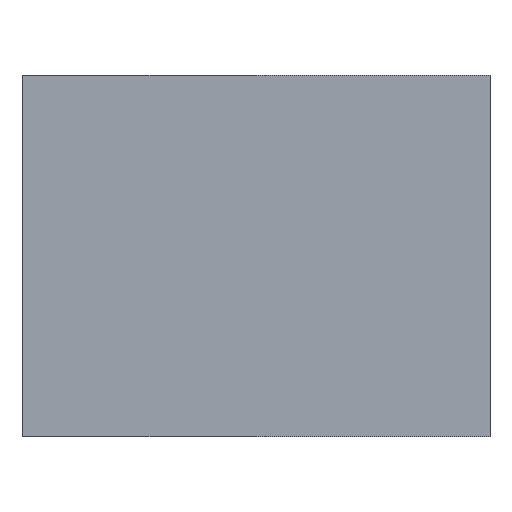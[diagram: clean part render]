
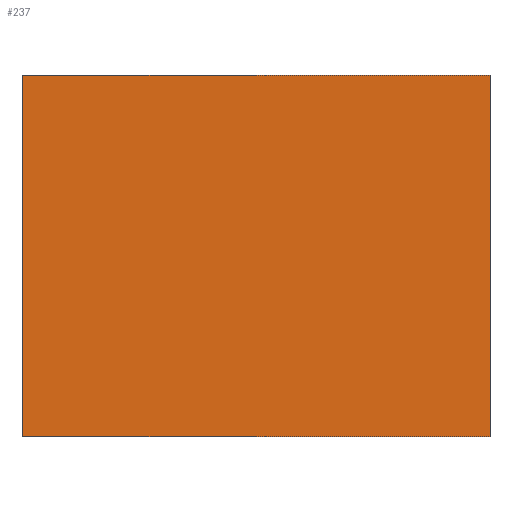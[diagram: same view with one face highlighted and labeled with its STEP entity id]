
A CAD part, front view. The second image highlights one B-rep face of the part: STEP entity #237.
In plain terms, the highlighted planar face has unit normal (0, -1, 0).
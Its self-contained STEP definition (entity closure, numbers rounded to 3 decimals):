
#24 = VERTEX_POINT('',#25);
#25 = CARTESIAN_POINT('',(-17.5,-99.,65.));
#32 = PLANE('',#33);
#33 = AXIS2_PLACEMENT_3D('',#34,#35,#36);
#34 = CARTESIAN_POINT('',(-17.5,-99.,38.));
#35 = DIRECTION('',(1.,0.,0.));
#36 = DIRECTION('',(0.,0.,1.));
#44 = PLANE('',#45);
#45 = AXIS2_PLACEMENT_3D('',#46,#47,#48);
#46 = CARTESIAN_POINT('',(-17.5,-99.,65.));
#47 = DIRECTION('',(0.,0.,1.));
#48 = DIRECTION('',(1.,0.,0.));
#85 = VERTEX_POINT('',#86);
#86 = CARTESIAN_POINT('',(-17.5,-99.,38.));
#100 = PLANE('',#101);
#101 = AXIS2_PLACEMENT_3D('',#102,#103,#104);
#102 = CARTESIAN_POINT('',(-17.5,-99.,38.));
#103 = DIRECTION('',(0.,0.,1.));
#104 = DIRECTION('',(1.,0.,0.));
#112 = EDGE_CURVE('',#85,#24,#113,.T.);
#113 = SURFACE_CURVE('',#114,(#118,#125),.PCURVE_S1.);
#114 = LINE('',#115,#116);
#115 = CARTESIAN_POINT('',(-17.5,-99.,38.));
#116 = VECTOR('',#117,1.);
#117 = DIRECTION('',(0.,0.,1.));
#118 = PCURVE('',#32,#119);
#119 = DEFINITIONAL_REPRESENTATION('',(#120),#124);
#120 = LINE('',#121,#122);
#121 = CARTESIAN_POINT('',(0.,0.));
#122 = VECTOR('',#123,1.);
#123 = DIRECTION('',(1.,0.));
#124 = ( GEOMETRIC_REPRESENTATION_CONTEXT(2) 
PARAMETRIC_REPRESENTATION_CONTEXT() REPRESENTATION_CONTEXT('2D SPACE',''
  ) );
#125 = PCURVE('',#126,#131);
#126 = PLANE('',#127);
#127 = AXIS2_PLACEMENT_3D('',#128,#129,#130);
#128 = CARTESIAN_POINT('',(-17.5,-99.,38.));
#129 = DIRECTION('',(0.,1.,0.));
#130 = DIRECTION('',(0.,0.,1.));
#131 = DEFINITIONAL_REPRESENTATION('',(#132),#136);
#132 = LINE('',#133,#134);
#133 = CARTESIAN_POINT('',(0.,0.));
#134 = VECTOR('',#135,1.);
#135 = DIRECTION('',(1.,0.));
#136 = ( GEOMETRIC_REPRESENTATION_CONTEXT(2) 
PARAMETRIC_REPRESENTATION_CONTEXT() REPRESENTATION_CONTEXT('2D SPACE',''
  ) );
#141 = EDGE_CURVE('',#142,#144,#146,.T.);
#142 = VERTEX_POINT('',#143);
#143 = CARTESIAN_POINT('',(17.5,-99.,38.));
#144 = VERTEX_POINT('',#145);
#145 = CARTESIAN_POINT('',(17.5,-99.,65.));
#146 = SURFACE_CURVE('',#147,(#151,#163),.PCURVE_S1.);
#147 = LINE('',#148,#149);
#148 = CARTESIAN_POINT('',(17.5,-99.,38.));
#149 = VECTOR('',#150,1.);
#150 = DIRECTION('',(0.,0.,1.));
#151 = PCURVE('',#152,#157);
#152 = PLANE('',#153);
#153 = AXIS2_PLACEMENT_3D('',#154,#155,#156);
#154 = CARTESIAN_POINT('',(17.5,-99.,38.));
#155 = DIRECTION('',(1.,0.,0.));
#156 = DIRECTION('',(0.,0.,1.));
#157 = DEFINITIONAL_REPRESENTATION('',(#158),#162);
#158 = LINE('',#159,#160);
#159 = CARTESIAN_POINT('',(0.,0.));
#160 = VECTOR('',#161,1.);
#161 = DIRECTION('',(1.,0.));
#162 = ( GEOMETRIC_REPRESENTATION_CONTEXT(2) 
PARAMETRIC_REPRESENTATION_CONTEXT() REPRESENTATION_CONTEXT('2D SPACE',''
  ) );
#163 = PCURVE('',#126,#164);
#164 = DEFINITIONAL_REPRESENTATION('',(#165),#169);
#165 = LINE('',#166,#167);
#166 = CARTESIAN_POINT('',(0.,35.));
#167 = VECTOR('',#168,1.);
#168 = DIRECTION('',(1.,0.));
#169 = ( GEOMETRIC_REPRESENTATION_CONTEXT(2) 
PARAMETRIC_REPRESENTATION_CONTEXT() REPRESENTATION_CONTEXT('2D SPACE',''
  ) );
#237 = ADVANCED_FACE('',(#238),#126,.F.);
#238 = FACE_BOUND('',#239,.T.);
#239 = EDGE_LOOP('',(#240,#241,#262,#263));
#240 = ORIENTED_EDGE('',*,*,#141,.T.);
#241 = ORIENTED_EDGE('',*,*,#242,.F.);
#242 = EDGE_CURVE('',#24,#144,#243,.T.);
#243 = SURFACE_CURVE('',#244,(#248,#255),.PCURVE_S1.);
#244 = LINE('',#245,#246);
#245 = CARTESIAN_POINT('',(-17.5,-99.,65.));
#246 = VECTOR('',#247,1.);
#247 = DIRECTION('',(1.,0.,0.));
#248 = PCURVE('',#126,#249);
#249 = DEFINITIONAL_REPRESENTATION('',(#250),#254);
#250 = LINE('',#251,#252);
#251 = CARTESIAN_POINT('',(27.,0.));
#252 = VECTOR('',#253,1.);
#253 = DIRECTION('',(0.,1.));
#254 = ( GEOMETRIC_REPRESENTATION_CONTEXT(2) 
PARAMETRIC_REPRESENTATION_CONTEXT() REPRESENTATION_CONTEXT('2D SPACE',''
  ) );
#255 = PCURVE('',#44,#256);
#256 = DEFINITIONAL_REPRESENTATION('',(#257),#261);
#257 = LINE('',#258,#259);
#258 = CARTESIAN_POINT('',(0.,0.));
#259 = VECTOR('',#260,1.);
#260 = DIRECTION('',(1.,0.));
#261 = ( GEOMETRIC_REPRESENTATION_CONTEXT(2) 
PARAMETRIC_REPRESENTATION_CONTEXT() REPRESENTATION_CONTEXT('2D SPACE',''
  ) );
#262 = ORIENTED_EDGE('',*,*,#112,.F.);
#263 = ORIENTED_EDGE('',*,*,#264,.T.);
#264 = EDGE_CURVE('',#85,#142,#265,.T.);
#265 = SURFACE_CURVE('',#266,(#270,#277),.PCURVE_S1.);
#266 = LINE('',#267,#268);
#267 = CARTESIAN_POINT('',(-17.5,-99.,38.));
#268 = VECTOR('',#269,1.);
#269 = DIRECTION('',(1.,0.,0.));
#270 = PCURVE('',#126,#271);
#271 = DEFINITIONAL_REPRESENTATION('',(#272),#276);
#272 = LINE('',#273,#274);
#273 = CARTESIAN_POINT('',(0.,0.));
#274 = VECTOR('',#275,1.);
#275 = DIRECTION('',(0.,1.));
#276 = ( GEOMETRIC_REPRESENTATION_CONTEXT(2) 
PARAMETRIC_REPRESENTATION_CONTEXT() REPRESENTATION_CONTEXT('2D SPACE',''
  ) );
#277 = PCURVE('',#100,#278);
#278 = DEFINITIONAL_REPRESENTATION('',(#279),#283);
#279 = LINE('',#280,#281);
#280 = CARTESIAN_POINT('',(0.,0.));
#281 = VECTOR('',#282,1.);
#282 = DIRECTION('',(1.,0.));
#283 = ( GEOMETRIC_REPRESENTATION_CONTEXT(2) 
PARAMETRIC_REPRESENTATION_CONTEXT() REPRESENTATION_CONTEXT('2D SPACE',''
  ) );
